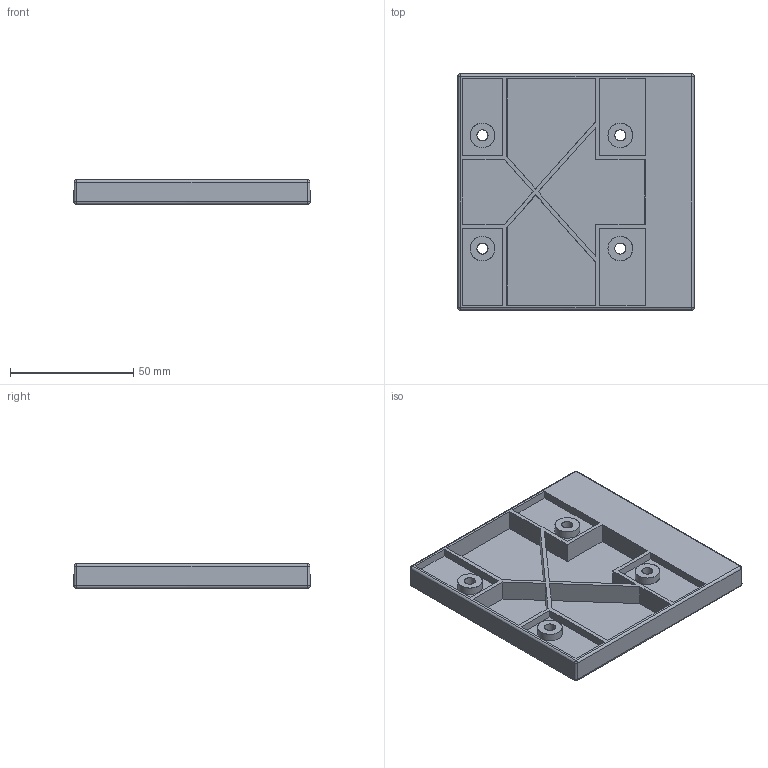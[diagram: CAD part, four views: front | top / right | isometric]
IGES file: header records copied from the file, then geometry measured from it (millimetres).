
Start section: C
Global section: file name: 8248-96.igs; native system: By Siemens PLM Incorporated; preprocessor: XPlus GENERIC/IGES 16.0.42; author: Author; organization: Title; date: 20230827.120228; units: millimetre
Bounding box: 95.98 x 95.98 x 10 mm (x, y, z)
Surface area: 31935.2 mm2 (no closed solid volume)
Topology: 0 solids, 0 shells, 109 faces, 532 edges, 524 vertices
Faces by surface type: bspline 109
